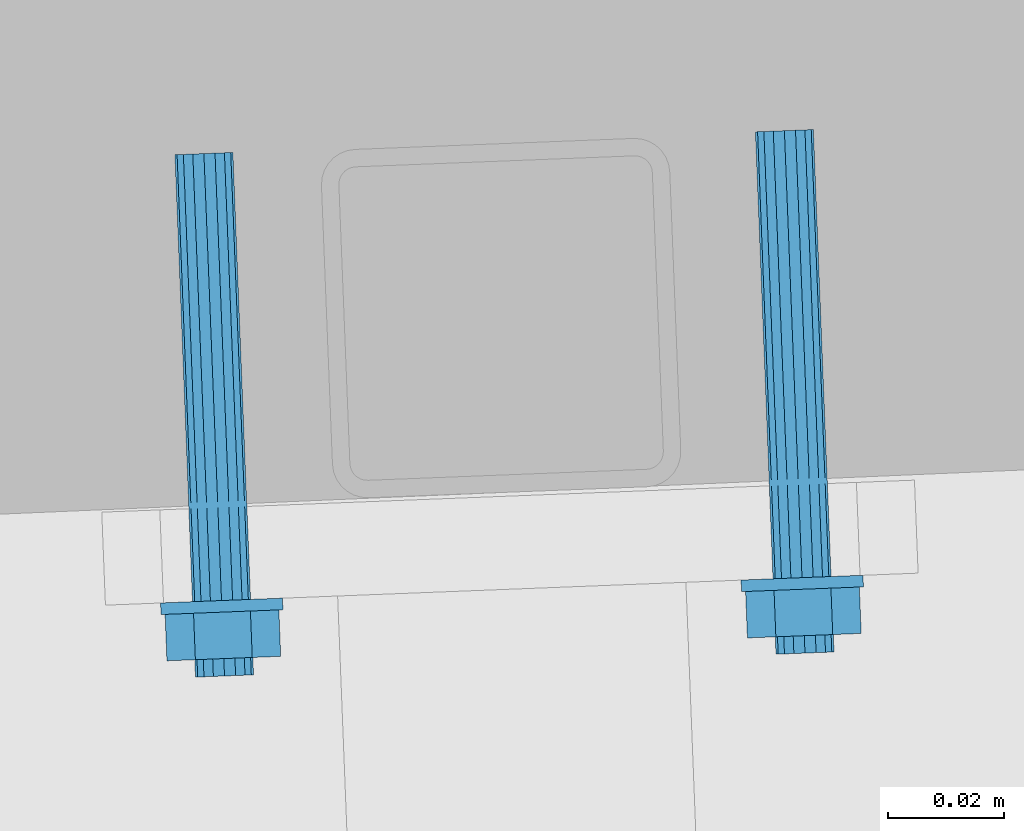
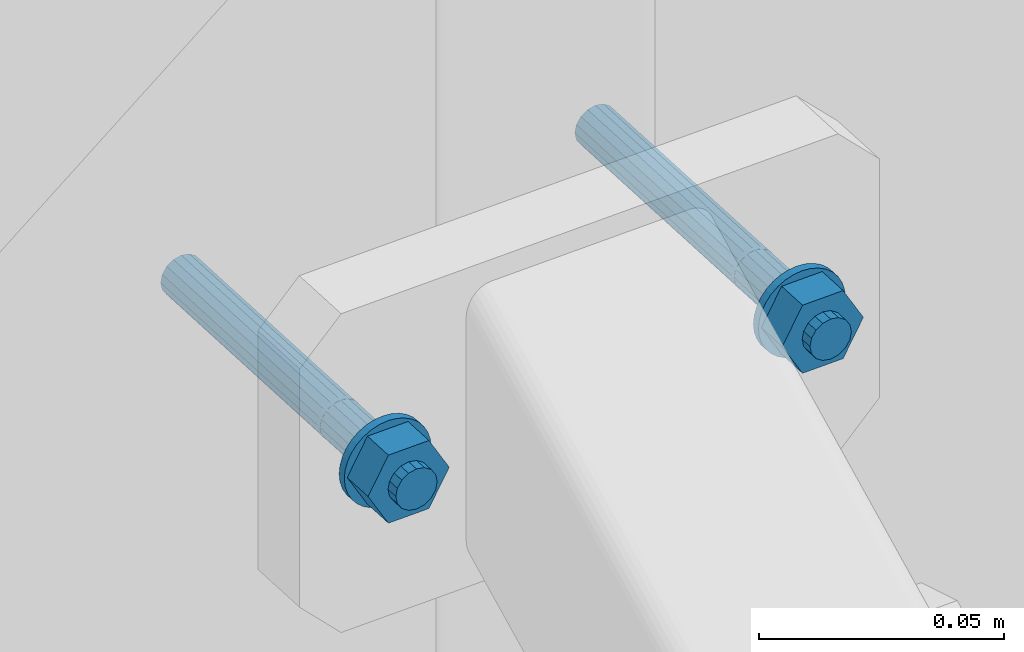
# One storey, part 271 of 288: 2 mechanical fasteners.
"""IFC2X3 building model written with IfcOpenShell, lengths in millimetres."""

from ifc_helpers import new_model, entity, si_unit, converted_unit, origin_with_axes, place, context, project, spatial, faceted_brep, element, save


model = new_model("IFC2X3")

# Units and contexts
model_context = context("Model", 3, precision=1e-09, world=origin_with_axes())
ifc_project = project(units=[si_unit("LENGTHUNIT", "METRE", prefix="MILLI"), si_unit("AREAUNIT", "SQUARE_METRE"), si_unit("VOLUMEUNIT", "CUBIC_METRE"), converted_unit("PLANEANGLEUNIT", "DEGREE", entity("IfcPlaneAngleMeasure", 0.01745329), si_unit("PLANEANGLEUNIT", "RADIAN"), dimensions=[0, 0, 0, 0, 0, 0, 0])], contexts=[model_context])

# Site, building, storey
site_placement = place(None, origin_with_axes())
site = spatial("IfcSite", under=ifc_project, at=site_placement, Name="Remont ?wietlik?w nad MC w NCPP w Opolu", CompositionType="ELEMENT")
building_placement = place(site_placement, origin_with_axes())
building = spatial("IfcBuilding", under=site, at=building_placement, Name="Konstrukcja 1", CompositionType="ELEMENT")
storey_placement = place(building_placement, origin_with_axes())
storey = spatial("IfcBuildingStorey", under=building, at=storey_placement, Name="Default Storey", CompositionType="ELEMENT", Elevation=0.0)

# Mechanical fasteners
mechanical_fastener_1_placement = place(None, origin_with_axes())
element("IfcMechanicalFastener", 1, at=mechanical_fastener_1_placement, inside=storey, ObjectType="Anchor_Bolt", NominalDiameter=10.0, NominalLength=90.0, context=model_context, shape_type="Brep", body=[
    faceted_brep([(6631.035627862, 15818.494900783, 1298.119158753), (6630.9568417, 15820.493348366, 1298.119158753), (6628.909983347, 15820.412653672, 1297.917404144), (6628.98876951, 15818.41420609, 1297.917404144), (6626.941784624, 15820.335060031, 1297.319893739), (6627.020570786, 15818.336612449, 1297.319893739), (6625.127882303, 15820.263549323, 1296.34958953), (6625.206668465, 15818.26510174, 1296.34958953), (6623.537983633, 15820.200869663, 1295.043779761), (6623.616769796, 15818.20242208, 1295.043779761), (6622.233187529, 15820.149429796, 1293.452645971), (6622.311973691, 15818.150982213, 1293.452645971), (6621.263636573, 15820.111206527, 1291.637334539), (6621.342422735, 15818.112758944, 1291.637334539), (6620.666590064, 15820.087668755, 1289.667606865), (6620.745376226, 15818.089221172, 1289.667606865), (6620.464992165, 15820.079721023, 1287.619158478), (6620.543778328, 15818.081273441, 1287.619158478), (6620.666590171, 15820.087668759, 1285.570710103), (6620.745376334, 15818.089221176, 1285.570710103), (6621.263636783, 15820.111206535, 1283.60098246), (6621.342422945, 15818.112758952, 1283.60098246), (6622.233187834, 15820.149429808, 1281.785671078), (6622.311973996, 15818.150982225, 1281.785671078), (6623.537984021, 15820.200869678, 1280.194537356), (6623.616770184, 15818.202422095, 1280.194537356), (6625.12788276, 15820.263549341, 1278.888727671), (6625.206668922, 15818.265101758, 1278.888727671), (6626.941785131, 15820.335060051, 1277.918423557), (6627.020571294, 15818.336612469, 1277.918423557), (6628.909983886, 15820.412653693, 1277.320913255), (6628.988770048, 15818.414206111, 1277.320913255), (6630.956842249, 15820.493348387, 1277.119158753), (6631.035628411, 15818.494900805, 1277.119158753), (6633.003700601, 15820.57404308, 1277.320913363), (6633.082486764, 15818.575595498, 1277.320913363), (6634.971899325, 15820.651636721, 1277.918423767), (6635.050685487, 15818.653189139, 1277.918423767), (6636.785801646, 15820.72314743, 1278.888727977), (6636.864587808, 15818.724699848, 1278.888727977), (6638.375700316, 15820.78582709, 1280.194537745), (6638.454486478, 15818.787379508, 1280.194537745), (6639.68049642, 15820.837266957, 1281.785671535), (6639.759282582, 15818.838819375, 1281.785671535), (6640.650047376, 15820.875490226, 1283.600982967), (6640.728833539, 15818.877042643, 1283.600982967), (6641.247093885, 15820.899027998, 1285.570710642), (6641.325880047, 15818.900580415, 1285.570710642), (6641.448691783, 15820.906975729, 1287.619159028), (6641.527477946, 15818.908528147, 1287.619159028), (6641.247093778, 15820.899027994, 1289.667607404), (6641.32587994, 15818.900580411, 1289.667607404), (6640.650047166, 15820.875490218, 1291.637335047), (6640.728833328, 15818.877042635, 1291.637335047), (6639.680496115, 15820.837266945, 1293.452646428), (6639.759282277, 15818.838819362, 1293.452646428), (6638.375699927, 15820.785827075, 1295.04378015), (6638.45448609, 15818.787379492, 1295.04378015), (6636.785801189, 15820.723147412, 1296.349589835), (6636.864587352, 15818.72469983, 1296.349589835), (6634.971898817, 15820.651636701, 1297.31989395), (6635.05068498, 15818.653189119, 1297.31989395), (6633.003700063, 15820.574043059, 1297.917404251), (6633.082486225, 15818.575595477, 1297.917404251)], [[[0, 1, 2, 3]], [[3, 2, 4, 5]], [[5, 4, 6, 7]], [[7, 6, 8, 9]], [[9, 8, 10, 11]], [[11, 10, 12, 13]], [[13, 12, 14, 15]], [[15, 14, 16, 17]], [[17, 16, 18, 19]], [[19, 18, 20, 21]], [[21, 20, 22, 23]], [[23, 22, 24, 25]], [[25, 24, 26, 27]], [[27, 26, 28, 29]], [[29, 28, 30, 31]], [[31, 30, 32, 33]], [[33, 32, 34, 35]], [[35, 34, 36, 37]], [[37, 36, 38, 39]], [[39, 38, 40, 41]], [[41, 40, 42, 43]], [[43, 42, 44, 45]], [[45, 44, 46, 47]], [[47, 46, 48, 49]], [[49, 48, 50, 51]], [[51, 50, 52, 53]], [[53, 52, 54, 55]], [[55, 54, 56, 57]], [[57, 56, 58, 59]], [[59, 58, 60, 61]], [[61, 60, 62, 63]], [[63, 62, 1, 0]], [[0, 3, 5, 7, 9, 11, 13, 15, 17, 19, 21, 23, 25, 27, 29, 31, 33, 35, 37, 39, 41, 43, 45, 47, 49, 51, 53, 55, 57, 59, 61, 63]], [[1, 62, 60, 58, 56, 54, 52, 50, 48, 46, 44, 42, 40, 38, 36, 34, 32, 30, 28, 26, 24, 22, 20, 18, 16, 14, 12, 10, 8, 6, 4, 2]]]),
    faceted_brep([(6626.139431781, 15818.301874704, 1279.132109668), (6626.454576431, 15810.308084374, 1279.132109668), (6621.558379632, 15810.115058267, 1287.619158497), (6621.243234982, 15818.108848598, 1287.619158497), (6626.454575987, 15810.308084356, 1296.106207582), (6626.139431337, 15818.301874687, 1296.106207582), (6636.246969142, 15810.694136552, 1296.106207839), (6635.931824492, 15818.687926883, 1296.106207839), (6641.143165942, 15810.887162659, 1287.61915901), (6640.828021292, 15818.88095299, 1287.61915901), (6636.246969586, 15810.69413657, 1279.132109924), (6635.931824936, 15818.6879269, 1279.132109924)], [[[0, 1, 2, 3]], [[3, 2, 4, 5]], [[5, 4, 6, 7]], [[7, 6, 8, 9]], [[9, 8, 10, 11]], [[11, 10, 1, 0]], [[4, 2, 1, 10, 8, 6]], [[0, 3, 5, 7, 9, 11]]]),
    faceted_brep([(6631.4689519, 15807.503439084, 1292.619158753), (6631.350772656, 15810.501110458, 1292.619158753), (6629.438840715, 15810.425735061, 1292.238556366), (6629.557019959, 15807.428063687, 1292.238556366), (6627.8179831, 15810.361834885, 1291.154692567), (6627.936162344, 15807.364163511, 1291.154692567), (6626.734960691, 15810.319138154, 1289.532575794), (6626.853139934, 15807.32146678, 1289.532575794), (6626.35465383, 15810.304145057, 1287.619158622), (6626.472833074, 15807.306473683, 1287.619158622), (6626.734960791, 15810.319138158, 1285.705741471), (6626.853140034, 15807.321466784, 1285.705741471), (6627.817983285, 15810.361834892, 1284.083624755), (6627.936162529, 15807.364163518, 1284.083624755), (6629.438840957, 15810.42573507, 1282.999761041), (6629.5570202, 15807.428063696, 1282.999761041), (6631.350772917, 15810.501110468, 1282.619158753), (6631.468952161, 15807.503439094, 1282.619158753), (6633.262704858, 15810.576485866, 1282.999761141), (6633.380884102, 15807.578814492, 1282.999761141), (6634.883562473, 15810.640386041, 1284.08362494), (6635.001741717, 15807.642714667, 1284.08362494), (6635.966584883, 15810.683082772, 1285.705741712), (6636.084764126, 15807.685411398, 1285.705741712), (6636.346891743, 15810.698075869, 1287.619158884), (6636.465070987, 15807.700404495, 1287.619158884), (6635.966584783, 15810.683082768, 1289.532576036), (6636.084764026, 15807.685411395, 1289.532576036), (6634.883562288, 15810.640386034, 1291.154692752), (6635.001741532, 15807.64271466, 1291.154692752), (6633.262704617, 15810.576485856, 1292.238556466), (6633.38088386, 15807.578814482, 1292.238556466)], [[[0, 1, 2, 3]], [[3, 2, 4, 5]], [[5, 4, 6, 7]], [[7, 6, 8, 9]], [[9, 8, 10, 11]], [[11, 10, 12, 13]], [[13, 12, 14, 15]], [[15, 14, 16, 17]], [[17, 16, 18, 19]], [[19, 18, 20, 21]], [[21, 20, 22, 23]], [[23, 22, 24, 25]], [[25, 24, 26, 27]], [[27, 26, 28, 29]], [[29, 28, 30, 31]], [[31, 30, 1, 0]], [[0, 3, 5, 7, 9, 11, 13, 15, 17, 19, 21, 23, 25, 27, 29, 31]], [[1, 30, 28, 26, 24, 22, 20, 18, 16, 14, 12, 10, 8, 6, 4, 2]]]),
    faceted_brep([(6630.956841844, 15820.493348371, 1292.619158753), (6630.326552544, 15836.480929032, 1292.619158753), (6628.414620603, 15836.405553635, 1292.238556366), (6629.044909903, 15820.417972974, 1292.238556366), (6626.793762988, 15836.34165346, 1291.154692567), (6627.424052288, 15820.354072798, 1291.154692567), (6625.710740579, 15836.298956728, 1289.532575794), (6626.341029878, 15820.311376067, 1289.532575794), (6625.330433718, 15836.283963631, 1287.619158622), (6625.960723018, 15820.29638297, 1287.619158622), (6625.710740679, 15836.298956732, 1285.705741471), (6626.341029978, 15820.311376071, 1285.705741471), (6626.793763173, 15836.341653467, 1284.083624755), (6627.424052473, 15820.354072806, 1284.083624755), (6628.414620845, 15836.405553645, 1282.999761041), (6629.044910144, 15820.417972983, 1282.999761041), (6630.326552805, 15836.480929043, 1282.619158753), (6630.956842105, 15820.493348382, 1282.619158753), (6632.238484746, 15836.55630444, 1282.999761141), (6632.868774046, 15820.568723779, 1282.999761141), (6633.859342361, 15836.620204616, 1284.08362494), (6634.489631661, 15820.632623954, 1284.08362494), (6634.942364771, 15836.662901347, 1285.705741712), (6635.57265407, 15820.675320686, 1285.705741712), (6635.322671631, 15836.677894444, 1287.619158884), (6635.952960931, 15820.690313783, 1287.619158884), (6634.942364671, 15836.662901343, 1289.532576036), (6635.57265397, 15820.675320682, 1289.532576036), (6633.859342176, 15836.620204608, 1291.154692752), (6634.489631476, 15820.632623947, 1291.154692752), (6632.238484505, 15836.55630443, 1292.238556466), (6632.868773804, 15820.568723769, 1292.238556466)], [[[0, 1, 2, 3]], [[3, 2, 4, 5]], [[5, 4, 6, 7]], [[7, 6, 8, 9]], [[9, 8, 10, 11]], [[11, 10, 12, 13]], [[13, 12, 14, 15]], [[15, 14, 16, 17]], [[17, 16, 18, 19]], [[19, 18, 20, 21]], [[21, 20, 22, 23]], [[23, 22, 24, 25]], [[25, 24, 26, 27]], [[27, 26, 28, 29]], [[29, 28, 30, 31]], [[31, 30, 1, 0]], [[0, 3, 5, 7, 9, 11, 13, 15, 17, 19, 21, 23, 25, 27, 29, 31]], [[1, 30, 28, 26, 24, 22, 20, 18, 16, 14, 12, 10, 8, 6, 4, 2]]]),
    faceted_brep([(6630.326552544, 15836.480929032, 1292.619158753), (6630.287159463, 15837.480152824, 1292.619158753), (6629.312465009, 15837.441726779, 1292.52308513), (6629.35185809, 15836.442502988, 1292.52308513), (6628.375227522, 15837.404777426, 1292.238556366), (6628.414620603, 15836.405553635, 1292.238556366), (6627.511464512, 15837.370724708, 1291.776506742), (6627.550857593, 15836.371500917, 1291.776506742), (6626.754369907, 15837.340877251, 1291.154692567), (6626.793762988, 15836.34165346, 1291.154692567), (6626.133038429, 15837.316382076, 1290.39700981), (6626.17243151, 15836.317158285, 1290.39700981), (6625.671347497, 15837.29818052, 1289.532575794), (6625.710740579, 15836.298956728, 1289.532575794), (6625.387039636, 15837.286972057, 1288.594610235), (6625.426432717, 15836.287748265, 1288.594610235), (6625.291040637, 15837.283187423, 1287.619158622), (6625.330433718, 15836.283963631, 1287.619158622), (6625.387039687, 15837.286972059, 1286.643707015), (6625.426432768, 15836.287748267, 1286.643707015), (6625.671347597, 15837.298180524, 1285.705741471), (6625.710740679, 15836.298956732, 1285.705741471), (6626.133038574, 15837.316382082, 1284.841307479), (6626.172431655, 15836.317158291, 1284.841307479), (6626.754370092, 15837.340877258, 1284.083624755), (6626.793763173, 15836.341653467, 1284.083624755), (6627.511464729, 15837.370724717, 1283.461810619), (6627.55085781, 15836.371500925, 1283.461810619), (6628.375227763, 15837.404777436, 1282.999761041), (6628.414620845, 15836.405553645, 1282.999761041), (6629.312465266, 15837.441726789, 1282.715232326), (6629.351858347, 15836.442502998, 1282.715232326), (6630.287159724, 15837.480152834, 1282.619158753), (6630.326552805, 15836.480929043, 1282.619158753), (6631.261854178, 15837.518578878, 1282.715232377), (6631.301247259, 15836.519355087, 1282.715232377), (6632.199091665, 15837.555528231, 1282.999761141), (6632.238484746, 15836.55630444, 1282.999761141), (6633.062854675, 15837.58958095, 1283.461810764), (6633.102247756, 15836.590357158, 1283.461810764), (6633.81994928, 15837.619428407, 1284.08362494), (6633.859342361, 15836.620204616, 1284.08362494), (6634.441280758, 15837.643923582, 1284.841307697), (6634.480673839, 15836.64469979, 1284.841307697), (6634.902971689, 15837.662125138, 1285.705741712), (6634.942364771, 15836.662901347, 1285.705741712), (6635.187279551, 15837.673333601, 1286.643707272), (6635.226672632, 15836.67410981, 1286.643707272), (6635.28327855, 15837.677118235, 1287.619158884), (6635.322671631, 15836.677894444, 1287.619158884), (6635.1872795, 15837.673333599, 1288.594610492), (6635.226672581, 15836.674109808, 1288.594610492), (6634.902971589, 15837.662125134, 1289.532576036), (6634.942364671, 15836.662901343, 1289.532576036), (6634.441280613, 15837.643923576, 1290.397010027), (6634.480673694, 15836.644699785, 1290.397010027), (6633.819949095, 15837.6194284, 1291.154692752), (6633.859342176, 15836.620204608, 1291.154692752), (6633.062854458, 15837.589580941, 1291.776506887), (6633.102247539, 15836.59035715, 1291.776506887), (6632.199091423, 15837.555528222, 1292.238556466), (6632.238484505, 15836.55630443, 1292.238556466), (6631.261853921, 15837.518578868, 1292.523085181), (6631.301247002, 15836.519355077, 1292.523085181)], [[[0, 1, 2, 3]], [[3, 2, 4, 5]], [[5, 4, 6, 7]], [[7, 6, 8, 9]], [[9, 8, 10, 11]], [[11, 10, 12, 13]], [[13, 12, 14, 15]], [[15, 14, 16, 17]], [[17, 16, 18, 19]], [[19, 18, 20, 21]], [[21, 20, 22, 23]], [[23, 22, 24, 25]], [[25, 24, 26, 27]], [[27, 26, 28, 29]], [[29, 28, 30, 31]], [[31, 30, 32, 33]], [[33, 32, 34, 35]], [[35, 34, 36, 37]], [[37, 36, 38, 39]], [[39, 38, 40, 41]], [[41, 40, 42, 43]], [[43, 42, 44, 45]], [[45, 44, 46, 47]], [[47, 46, 48, 49]], [[49, 48, 50, 51]], [[51, 50, 52, 53]], [[53, 52, 54, 55]], [[55, 54, 56, 57]], [[57, 56, 58, 59]], [[59, 58, 60, 61]], [[61, 60, 62, 63]], [[63, 62, 1, 0]], [[0, 3, 5, 7, 9, 11, 13, 15, 17, 19, 21, 23, 25, 27, 29, 31, 33, 35, 37, 39, 41, 43, 45, 47, 49, 51, 53, 55, 57, 59, 61, 63]], [[1, 62, 60, 58, 56, 54, 52, 50, 48, 46, 44, 42, 40, 38, 36, 34, 32, 30, 28, 26, 24, 22, 20, 18, 16, 14, 12, 10, 8, 6, 4, 2]]]),
    faceted_brep([(6630.287159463, 15837.480152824, 1292.619158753), (6627.923574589, 15897.433580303, 1292.619158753), (6626.011642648, 15897.358204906, 1292.238556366), (6628.375227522, 15837.404777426, 1292.238556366), (6624.390785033, 15897.29430473, 1291.154692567), (6626.754369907, 15837.340877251, 1291.154692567), (6623.307762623, 15897.251607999, 1289.532575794), (6625.671347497, 15837.29818052, 1289.532575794), (6622.927455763, 15897.236614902, 1287.619158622), (6625.291040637, 15837.283187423, 1287.619158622), (6623.307762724, 15897.251608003, 1285.705741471), (6625.671347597, 15837.298180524, 1285.705741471), (6624.390785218, 15897.294304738, 1284.083624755), (6626.754370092, 15837.340877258, 1284.083624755), (6626.011642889, 15897.358204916, 1282.999761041), (6628.375227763, 15837.404777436, 1282.999761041), (6627.92357485, 15897.433580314, 1282.619158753), (6630.287159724, 15837.480152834, 1282.619158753), (6629.835506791, 15897.508955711, 1282.999761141), (6632.199091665, 15837.555528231, 1282.999761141), (6631.456364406, 15897.572855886, 1284.08362494), (6633.81994928, 15837.619428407, 1284.08362494), (6632.539386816, 15897.615552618, 1285.705741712), (6634.902971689, 15837.662125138, 1285.705741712), (6632.919693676, 15897.630545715, 1287.619158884), (6635.28327855, 15837.677118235, 1287.619158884), (6632.539386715, 15897.615552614, 1289.532576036), (6634.902971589, 15837.662125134, 1289.532576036), (6631.456364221, 15897.572855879, 1291.154692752), (6633.819949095, 15837.6194284, 1291.154692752), (6629.83550655, 15897.508955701, 1292.238556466), (6632.199091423, 15837.555528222, 1292.238556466)], [[[0, 1, 2, 3]], [[3, 2, 4, 5]], [[5, 4, 6, 7]], [[7, 6, 8, 9]], [[9, 8, 10, 11]], [[11, 10, 12, 13]], [[13, 12, 14, 15]], [[15, 14, 16, 17]], [[17, 16, 18, 19]], [[19, 18, 20, 21]], [[21, 20, 22, 23]], [[23, 22, 24, 25]], [[25, 24, 26, 27]], [[27, 26, 28, 29]], [[29, 28, 30, 31]], [[31, 30, 1, 0]], [[0, 3, 5, 7, 9, 11, 13, 15, 17, 19, 21, 23, 25, 27, 29, 31]], [[1, 30, 28, 26, 24, 22, 20, 18, 16, 14, 12, 10, 8, 6, 4, 2]]]),
])
mechanical_fastener_2_placement = place(None, origin_with_axes())
element("IfcMechanicalFastener", 2, at=mechanical_fastener_2_placement, inside=storey, ObjectType="Anchor_Bolt", NominalDiameter=10.0, NominalLength=90.0, context=model_context, shape_type="Brep", body=[
    faceted_brep([(6531.11324873, 15814.55559266, 1298.119156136), (6531.034462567, 15816.554040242, 1298.119156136), (6528.987604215, 15816.473345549, 1297.917401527), (6529.066390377, 15814.474897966, 1297.917401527), (6527.019405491, 15816.395751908, 1297.319891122), (6527.098191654, 15814.397304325, 1297.319891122), (6525.20550317, 15816.324241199, 1296.349586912), (6525.284289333, 15814.325793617, 1296.349586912), (6523.615604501, 15816.261561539, 1295.043777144), (6523.694390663, 15814.263113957, 1295.043777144), (6522.310808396, 15816.210121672, 1293.452643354), (6522.389594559, 15814.21167409, 1293.452643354), (6521.34125744, 15816.171898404, 1291.637331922), (6521.420043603, 15814.173450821, 1291.637331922), (6520.744210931, 15816.148360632, 1289.667604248), (6520.822997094, 15814.149913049, 1289.667604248), (6520.542613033, 15816.1404129, 1287.619155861), (6520.621399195, 15814.141965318, 1287.619155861), (6520.744211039, 15816.148360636, 1285.570707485), (6520.822997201, 15814.149913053, 1285.570707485), (6521.34125765, 15816.171898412, 1283.600979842), (6521.420043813, 15814.173450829, 1283.600979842), (6522.310808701, 15816.210121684, 1281.785668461), (6522.389594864, 15814.211674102, 1281.785668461), (6523.615604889, 15816.261561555, 1280.194534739), (6523.694391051, 15814.263113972, 1280.194534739), (6525.205503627, 15816.324241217, 1278.888725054), (6525.284289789, 15814.325793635, 1278.888725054), (6527.019405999, 15816.395751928, 1277.918420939), (6527.098192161, 15814.397304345, 1277.918420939), (6528.987604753, 15816.47334557, 1277.320910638), (6529.066390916, 15814.474897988, 1277.320910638), (6531.034463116, 15816.554040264, 1277.119156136), (6531.113249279, 15814.555592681, 1277.119156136), (6533.081321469, 15816.634734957, 1277.320910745), (6533.160107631, 15814.636287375, 1277.320910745), (6535.049520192, 15816.712328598, 1277.91842115), (6535.128306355, 15814.713881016, 1277.91842115), (6536.863422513, 15816.783839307, 1278.888725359), (6536.942208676, 15814.785391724, 1278.888725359), (6538.453321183, 15816.846518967, 1280.194535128), (6538.532107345, 15814.848071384, 1280.194535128), (6539.758117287, 15816.897958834, 1281.785668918), (6539.83690345, 15814.899511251, 1281.785668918), (6540.727668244, 15816.936182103, 1283.60098035), (6540.806454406, 15814.93773452, 1283.60098035), (6541.324714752, 15816.959719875, 1285.570708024), (6541.403500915, 15814.961272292, 1285.570708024), (6541.526312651, 15816.967667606, 1287.619156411), (6541.605098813, 15814.969220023, 1287.619156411), (6541.324714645, 15816.95971987, 1289.667604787), (6541.403500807, 15814.961272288, 1289.667604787), (6540.727668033, 15816.936182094, 1291.63733243), (6540.806454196, 15814.937734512, 1291.63733243), (6539.758116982, 15816.897958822, 1293.452643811), (6539.836903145, 15814.899511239, 1293.452643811), (6538.453320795, 15816.846518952, 1295.043777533), (6538.532106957, 15814.848071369, 1295.043777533), (6536.863422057, 15816.783839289, 1296.349587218), (6536.942208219, 15814.785391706, 1296.349587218), (6535.049519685, 15816.712328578, 1297.319891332), (6535.128305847, 15814.713880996, 1297.319891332), (6533.08132093, 15816.634734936, 1297.917401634), (6533.160107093, 15814.636287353, 1297.917401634)], [[[0, 1, 2, 3]], [[3, 2, 4, 5]], [[5, 4, 6, 7]], [[7, 6, 8, 9]], [[9, 8, 10, 11]], [[11, 10, 12, 13]], [[13, 12, 14, 15]], [[15, 14, 16, 17]], [[17, 16, 18, 19]], [[19, 18, 20, 21]], [[21, 20, 22, 23]], [[23, 22, 24, 25]], [[25, 24, 26, 27]], [[27, 26, 28, 29]], [[29, 28, 30, 31]], [[31, 30, 32, 33]], [[33, 32, 34, 35]], [[35, 34, 36, 37]], [[37, 36, 38, 39]], [[39, 38, 40, 41]], [[41, 40, 42, 43]], [[43, 42, 44, 45]], [[45, 44, 46, 47]], [[47, 46, 48, 49]], [[49, 48, 50, 51]], [[51, 50, 52, 53]], [[53, 52, 54, 55]], [[55, 54, 56, 57]], [[57, 56, 58, 59]], [[59, 58, 60, 61]], [[61, 60, 62, 63]], [[63, 62, 1, 0]], [[0, 3, 5, 7, 9, 11, 13, 15, 17, 19, 21, 23, 25, 27, 29, 31, 33, 35, 37, 39, 41, 43, 45, 47, 49, 51, 53, 55, 57, 59, 61, 63]], [[1, 62, 60, 58, 56, 54, 52, 50, 48, 46, 44, 42, 40, 38, 36, 34, 32, 30, 28, 26, 24, 22, 20, 18, 16, 14, 12, 10, 8, 6, 4, 2]]]),
    faceted_brep([(6526.217052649, 15814.362566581, 1279.132107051), (6526.532197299, 15806.368776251, 1279.132107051), (6521.636000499, 15806.175750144, 1287.619155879), (6521.320855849, 15814.169540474, 1287.619155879), (6526.532196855, 15806.368776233, 1296.106204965), (6526.217052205, 15814.362566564, 1296.106204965), (6536.32459001, 15806.754828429, 1296.106205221), (6536.00944536, 15814.74861876, 1296.106205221), (6541.220786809, 15806.947854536, 1287.619156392), (6540.905642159, 15814.941644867, 1287.619156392), (6536.324590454, 15806.754828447, 1279.132107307), (6536.009445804, 15814.748618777, 1279.132107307)], [[[0, 1, 2, 3]], [[3, 2, 4, 5]], [[5, 4, 6, 7]], [[7, 6, 8, 9]], [[9, 8, 10, 11]], [[11, 10, 1, 0]], [[4, 2, 1, 10, 8, 6]], [[0, 3, 5, 7, 9, 11]]]),
    faceted_brep([(6531.546572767, 15803.564130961, 1292.619156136), (6531.428393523, 15806.561802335, 1292.619156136), (6529.516461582, 15806.486426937, 1292.238553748), (6529.634640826, 15803.488755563, 1292.238553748), (6527.895603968, 15806.422526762, 1291.154689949), (6528.013783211, 15803.424855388, 1291.154689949), (6526.812581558, 15806.379830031, 1289.532573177), (6526.930760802, 15803.382158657, 1289.532573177), (6526.432274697, 15806.364836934, 1287.619156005), (6526.550453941, 15803.36716556, 1287.619156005), (6526.812581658, 15806.379830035, 1285.705738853), (6526.930760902, 15803.382158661, 1285.705738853), (6527.895604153, 15806.422526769, 1284.083622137), (6528.013783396, 15803.424855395, 1284.083622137), (6529.516461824, 15806.486426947, 1282.999758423), (6529.634641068, 15803.488755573, 1282.999758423), (6531.428393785, 15806.561802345, 1282.619156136), (6531.546573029, 15803.564130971, 1282.619156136), (6533.340325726, 15806.637177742, 1282.999758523), (6533.458504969, 15803.639506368, 1282.999758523), (6534.96118334, 15806.701077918, 1284.083622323), (6535.079362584, 15803.703406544, 1284.083622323), (6536.04420575, 15806.743774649, 1285.705739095), (6536.162384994, 15803.746103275, 1285.705739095), (6536.424512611, 15806.758767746, 1287.619156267), (6536.542691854, 15803.761096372, 1287.619156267), (6536.04420565, 15806.743774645, 1289.532573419), (6536.162384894, 15803.746103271, 1289.532573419), (6534.961183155, 15806.701077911, 1291.154690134), (6535.079362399, 15803.703406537, 1291.154690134), (6533.340325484, 15806.637177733, 1292.238553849), (6533.458504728, 15803.639506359, 1292.238553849)], [[[0, 1, 2, 3]], [[3, 2, 4, 5]], [[5, 4, 6, 7]], [[7, 6, 8, 9]], [[9, 8, 10, 11]], [[11, 10, 12, 13]], [[13, 12, 14, 15]], [[15, 14, 16, 17]], [[17, 16, 18, 19]], [[19, 18, 20, 21]], [[21, 20, 22, 23]], [[23, 22, 24, 25]], [[25, 24, 26, 27]], [[27, 26, 28, 29]], [[29, 28, 30, 31]], [[31, 30, 1, 0]], [[0, 3, 5, 7, 9, 11, 13, 15, 17, 19, 21, 23, 25, 27, 29, 31]], [[1, 30, 28, 26, 24, 22, 20, 18, 16, 14, 12, 10, 8, 6, 4, 2]]]),
    faceted_brep([(6531.034462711, 15816.554040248, 1292.619156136), (6530.404173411, 15832.541620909, 1292.619156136), (6528.49224147, 15832.466245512, 1292.238553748), (6529.12253077, 15816.478664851, 1292.238553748), (6526.871383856, 15832.402345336, 1291.154689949), (6527.501673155, 15816.414764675, 1291.154689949), (6525.788361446, 15832.359648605, 1289.532573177), (6526.418650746, 15816.372067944, 1289.532573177), (6525.408054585, 15832.344655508, 1287.619156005), (6526.038343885, 15816.357074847, 1287.619156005), (6525.788361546, 15832.359648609, 1285.705738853), (6526.418650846, 15816.372067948, 1285.705738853), (6526.871384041, 15832.402345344, 1284.083622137), (6527.50167334, 15816.414764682, 1284.083622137), (6528.492241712, 15832.466245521, 1282.999758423), (6529.122531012, 15816.47866486, 1282.999758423), (6530.404173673, 15832.54162092, 1282.619156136), (6531.034462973, 15816.554040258, 1282.619156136), (6532.316105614, 15832.616996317, 1282.999758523), (6532.946394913, 15816.629415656, 1282.999758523), (6533.936963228, 15832.680896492, 1284.083622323), (6534.567252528, 15816.693315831, 1284.083622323), (6535.019985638, 15832.723593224, 1285.705739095), (6535.650274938, 15816.736012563, 1285.705739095), (6535.400292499, 15832.738586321, 1287.619156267), (6536.030581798, 15816.751005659, 1287.619156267), (6535.019985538, 15832.72359322, 1289.532573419), (6535.650274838, 15816.736012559, 1289.532573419), (6533.936963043, 15832.680896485, 1291.154690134), (6534.567252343, 15816.693315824, 1291.154690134), (6532.316105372, 15832.616996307, 1292.238553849), (6532.946394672, 15816.629415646, 1292.238553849)], [[[0, 1, 2, 3]], [[3, 2, 4, 5]], [[5, 4, 6, 7]], [[7, 6, 8, 9]], [[9, 8, 10, 11]], [[11, 10, 12, 13]], [[13, 12, 14, 15]], [[15, 14, 16, 17]], [[17, 16, 18, 19]], [[19, 18, 20, 21]], [[21, 20, 22, 23]], [[23, 22, 24, 25]], [[25, 24, 26, 27]], [[27, 26, 28, 29]], [[29, 28, 30, 31]], [[31, 30, 1, 0]], [[0, 3, 5, 7, 9, 11, 13, 15, 17, 19, 21, 23, 25, 27, 29, 31]], [[1, 30, 28, 26, 24, 22, 20, 18, 16, 14, 12, 10, 8, 6, 4, 2]]]),
    faceted_brep([(6530.404173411, 15832.541620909, 1292.619156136), (6530.36478033, 15833.540844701, 1292.619156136), (6529.390085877, 15833.502418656, 1292.523082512), (6529.429478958, 15832.503194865, 1292.523082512), (6528.452848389, 15833.465469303, 1292.238553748), (6528.49224147, 15832.466245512, 1292.238553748), (6527.589085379, 15833.431416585, 1291.776504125), (6527.62847846, 15832.432192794, 1291.776504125), (6526.831990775, 15833.401569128, 1291.154689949), (6526.871383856, 15832.402345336, 1291.154689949), (6526.210659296, 15833.377073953, 1290.397007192), (6526.250052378, 15832.377850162, 1290.397007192), (6525.748968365, 15833.358872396, 1289.532573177), (6525.788361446, 15832.359648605, 1289.532573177), (6525.464660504, 15833.347663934, 1288.594607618), (6525.504053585, 15832.348440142, 1288.594607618), (6525.368661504, 15833.3438793, 1287.619156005), (6525.408054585, 15832.344655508, 1287.619156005), (6525.464660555, 15833.347663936, 1286.643704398), (6525.504053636, 15832.348440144, 1286.643704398), (6525.748968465, 15833.3588724, 1285.705738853), (6525.788361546, 15832.359648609, 1285.705738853), (6526.210659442, 15833.377073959, 1284.841304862), (6526.250052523, 15832.377850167, 1284.841304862), (6526.831990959, 15833.401569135, 1284.083622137), (6526.871384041, 15832.402345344, 1284.083622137), (6527.589085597, 15833.431416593, 1283.461808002), (6527.628478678, 15832.432192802, 1283.461808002), (6528.452848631, 15833.465469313, 1282.999758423), (6528.492241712, 15832.466245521, 1282.999758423), (6529.390086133, 15833.502418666, 1282.715229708), (6529.429479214, 15832.503194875, 1282.715229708), (6530.364780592, 15833.540844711, 1282.619156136), (6530.404173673, 15832.54162092, 1282.619156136), (6531.339475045, 15833.579270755, 1282.715229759), (6531.378868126, 15832.580046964, 1282.715229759), (6532.276712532, 15833.616220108, 1282.999758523), (6532.316105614, 15832.616996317, 1282.999758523), (6533.140475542, 15833.650272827, 1283.461808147), (6533.179868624, 15832.651049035, 1283.461808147), (6533.897570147, 15833.680120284, 1284.083622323), (6533.936963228, 15832.680896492, 1284.083622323), (6534.518901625, 15833.704615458, 1284.84130508), (6534.558294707, 15832.705391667, 1284.84130508), (6534.980592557, 15833.722817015, 1285.705739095), (6535.019985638, 15832.723593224, 1285.705739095), (6535.264900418, 15833.734025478, 1286.643704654), (6535.304293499, 15832.734801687, 1286.643704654), (6535.360899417, 15833.737810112, 1287.619156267), (6535.400292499, 15832.738586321, 1287.619156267), (6535.264900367, 15833.734025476, 1288.594607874), (6535.304293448, 15832.734801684, 1288.594607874), (6534.980592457, 15833.722817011, 1289.532573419), (6535.019985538, 15832.72359322, 1289.532573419), (6534.51890148, 15833.704615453, 1290.39700741), (6534.558294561, 15832.705391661, 1290.39700741), (6533.897569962, 15833.680120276, 1291.154690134), (6533.936963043, 15832.680896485, 1291.154690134), (6533.140475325, 15833.650272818, 1291.77650427), (6533.179868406, 15832.651049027, 1291.77650427), (6532.276712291, 15833.616220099, 1292.238553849), (6532.316105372, 15832.616996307, 1292.238553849), (6531.339474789, 15833.579270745, 1292.523082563), (6531.37886787, 15832.580046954, 1292.523082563)], [[[0, 1, 2, 3]], [[3, 2, 4, 5]], [[5, 4, 6, 7]], [[7, 6, 8, 9]], [[9, 8, 10, 11]], [[11, 10, 12, 13]], [[13, 12, 14, 15]], [[15, 14, 16, 17]], [[17, 16, 18, 19]], [[19, 18, 20, 21]], [[21, 20, 22, 23]], [[23, 22, 24, 25]], [[25, 24, 26, 27]], [[27, 26, 28, 29]], [[29, 28, 30, 31]], [[31, 30, 32, 33]], [[33, 32, 34, 35]], [[35, 34, 36, 37]], [[37, 36, 38, 39]], [[39, 38, 40, 41]], [[41, 40, 42, 43]], [[43, 42, 44, 45]], [[45, 44, 46, 47]], [[47, 46, 48, 49]], [[49, 48, 50, 51]], [[51, 50, 52, 53]], [[53, 52, 54, 55]], [[55, 54, 56, 57]], [[57, 56, 58, 59]], [[59, 58, 60, 61]], [[61, 60, 62, 63]], [[63, 62, 1, 0]], [[0, 3, 5, 7, 9, 11, 13, 15, 17, 19, 21, 23, 25, 27, 29, 31, 33, 35, 37, 39, 41, 43, 45, 47, 49, 51, 53, 55, 57, 59, 61, 63]], [[1, 62, 60, 58, 56, 54, 52, 50, 48, 46, 44, 42, 40, 38, 36, 34, 32, 30, 28, 26, 24, 22, 20, 18, 16, 14, 12, 10, 8, 6, 4, 2]]]),
    faceted_brep([(6530.36478033, 15833.540844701, 1292.619156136), (6528.001195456, 15893.49427218, 1292.619156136), (6526.089263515, 15893.418896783, 1292.238553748), (6528.452848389, 15833.465469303, 1292.238553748), (6524.468405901, 15893.354996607, 1291.154689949), (6526.831990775, 15833.401569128, 1291.154689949), (6523.385383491, 15893.312299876, 1289.532573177), (6525.748968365, 15833.358872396, 1289.532573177), (6523.00507663, 15893.297306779, 1287.619156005), (6525.368661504, 15833.3438793, 1287.619156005), (6523.385383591, 15893.31229988, 1285.705738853), (6525.748968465, 15833.3588724, 1285.705738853), (6524.468406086, 15893.354996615, 1284.083622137), (6526.831990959, 15833.401569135, 1284.083622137), (6526.089263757, 15893.418896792, 1282.999758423), (6528.452848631, 15833.465469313, 1282.999758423), (6528.001195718, 15893.49427219, 1282.619156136), (6530.364780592, 15833.540844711, 1282.619156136), (6529.913127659, 15893.569647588, 1282.999758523), (6532.276712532, 15833.616220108, 1282.999758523), (6531.533985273, 15893.633547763, 1284.083622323), (6533.897570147, 15833.680120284, 1284.083622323), (6532.617007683, 15893.676244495, 1285.705739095), (6534.980592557, 15833.722817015, 1285.705739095), (6532.997314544, 15893.691237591, 1287.619156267), (6535.360899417, 15833.737810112, 1287.619156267), (6532.617007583, 15893.676244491, 1289.532573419), (6534.980592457, 15833.722817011, 1289.532573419), (6531.533985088, 15893.633547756, 1291.154690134), (6533.897569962, 15833.680120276, 1291.154690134), (6529.913127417, 15893.569647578, 1292.238553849), (6532.276712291, 15833.616220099, 1292.238553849)], [[[0, 1, 2, 3]], [[3, 2, 4, 5]], [[5, 4, 6, 7]], [[7, 6, 8, 9]], [[9, 8, 10, 11]], [[11, 10, 12, 13]], [[13, 12, 14, 15]], [[15, 14, 16, 17]], [[17, 16, 18, 19]], [[19, 18, 20, 21]], [[21, 20, 22, 23]], [[23, 22, 24, 25]], [[25, 24, 26, 27]], [[27, 26, 28, 29]], [[29, 28, 30, 31]], [[31, 30, 1, 0]], [[0, 3, 5, 7, 9, 11, 13, 15, 17, 19, 21, 23, 25, 27, 29, 31]], [[1, 30, 28, 26, 24, 22, 20, 18, 16, 14, 12, 10, 8, 6, 4, 2]]]),
])

save(model, "model.ifc")
